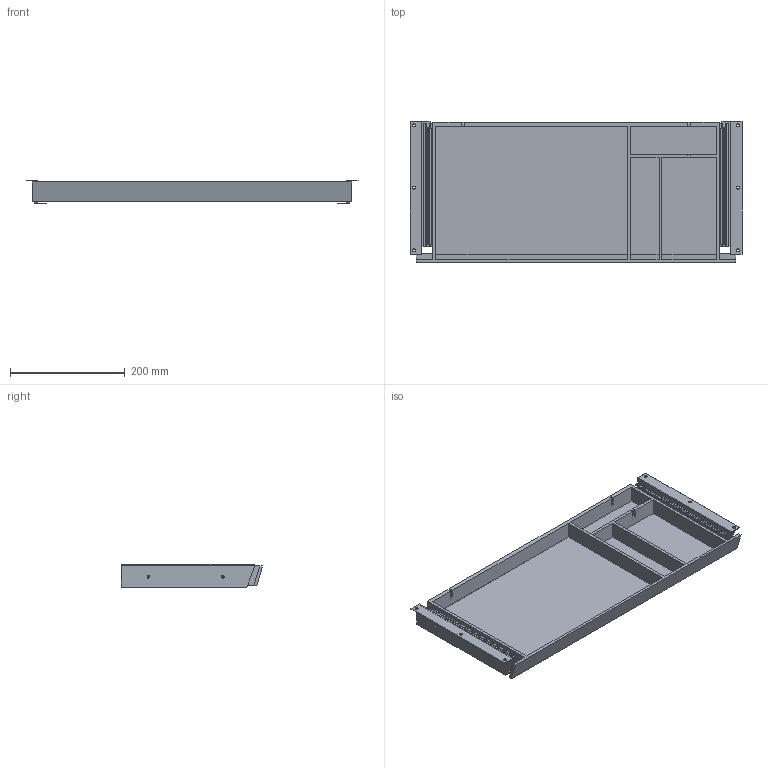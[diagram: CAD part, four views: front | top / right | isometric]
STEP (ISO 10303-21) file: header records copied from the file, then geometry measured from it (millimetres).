
FILE_DESCRIPTION( ( 'STEP AP214' ), '1' );
FILE_NAME( 'C:/Users/KOSH/Desktop/New folder/9309825.stp', '2022-01-27T11:28:22', ( '' ), ( '' ), ' ', 'PARTsolutions', ' ' );
FILE_SCHEMA( ( 'AUTOMOTIVE_DESIGN { 1 0 10303 214 1 1 1 1 }' ) );
Length unit declared in the file: millimetre
Products named in the file (12): 9309825; _outer sheet_tb_19; _outer sheet_tb_r_20; _Side cover_24; _ka1_7; _ka1_r_10; _tray bamboo_29; _PAD_23; _ka2_15; _ka3_11; _ka2_r_18; _ka3_r_14
Assembly tree (12 placements, depth 2):
  9309825
    _outer sheet_tb_19
    _outer sheet_tb_r_20
    _Side cover_24  x2
    _ka1_7
    _ka1_r_10
    _tray bamboo_29
    _PAD_23
    _ka2_15
    _ka3_11
    _ka2_r_18
    _ka3_r_14
Bounding box: 579.6 x 246.5 x 41 mm (x, y, z)
Volume: 1172353 mm3; surface area: 731618.4 mm2
Topology: 12 solids, 12 shells, 326 faces, 887 edges, 597 vertices
Faces by surface type: plane 256, cylinder 70
Full cylindrical faces by diameter (mm): 3.5 x10, 4.5 x8, 5 x10, 5.2 x4, 5.9 x2, 10 x2, 15.5 x2
Entity records: 12473 total; most frequent: CARTESIAN_POINT 1701, ORIENTED_EDGE 1618, DIRECTION 1605, EDGE_CURVE 809, LINE 673, VECTOR 673, VERTEX_POINT 562, AXIS2_PLACEMENT_3D 466
